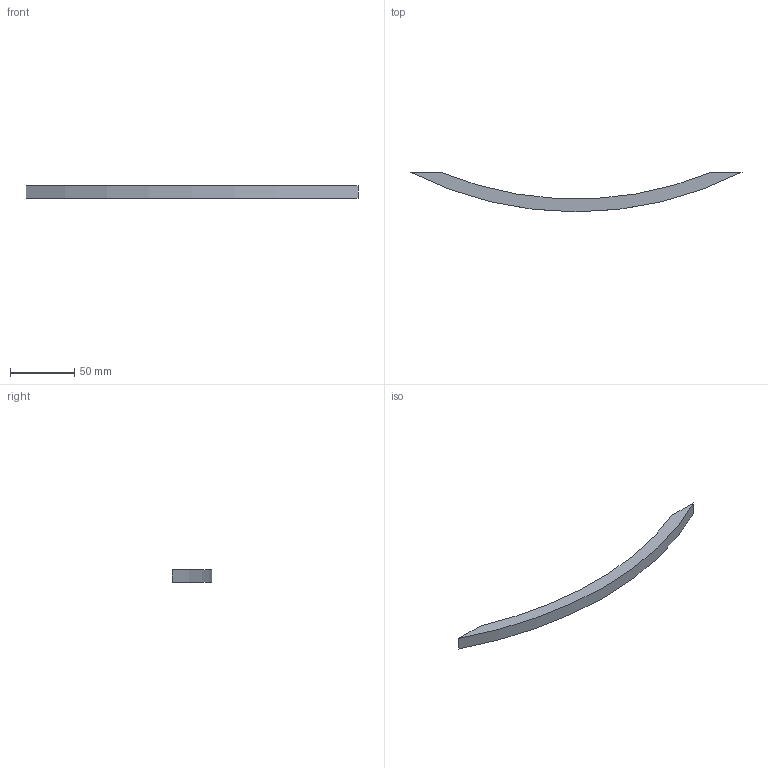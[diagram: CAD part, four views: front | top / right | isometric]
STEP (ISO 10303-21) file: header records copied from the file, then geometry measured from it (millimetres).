
FILE_DESCRIPTION( ( 'STEP AP214' ), '1' );
FILE_NAME( 'C:/Users/swati/Desktop/guarani/9208049/9208049.stp', ' ', ( ' ' ), ( ' ' ), 'PSStep 15.0.47', 'PARTsolutions', ' ' );
FILE_SCHEMA( ( 'AUTOMOTIVE_DESIGN { 1 0 10303 214 1 1 1 1 }' ) );
Length unit declared in the file: millimetre
Products named in the file (2): 95 ; _
Assembly tree (1 placements, depth 2):
  95 
    _
Bounding box: 259 x 31 x 10 mm (x, y, z)
Volume: 24205.3 mm3; surface area: 10324.9 mm2
Topology: 1 solids, 1 shells, 10 faces, 18 edges, 12 vertices
Faces by surface type: plane 6, cylinder 4
Full cylindrical faces by diameter (mm): 4 x2
Entity records: 358 total; most frequent: DIRECTION 48, CARTESIAN_POINT 40, ORIENTED_EDGE 32, AXIS2_PLACEMENT_3D 20, EDGE_CURVE 16, EDGE_LOOP 14, FACE_OUTER_BOUND 12, VERTEX_POINT 12
